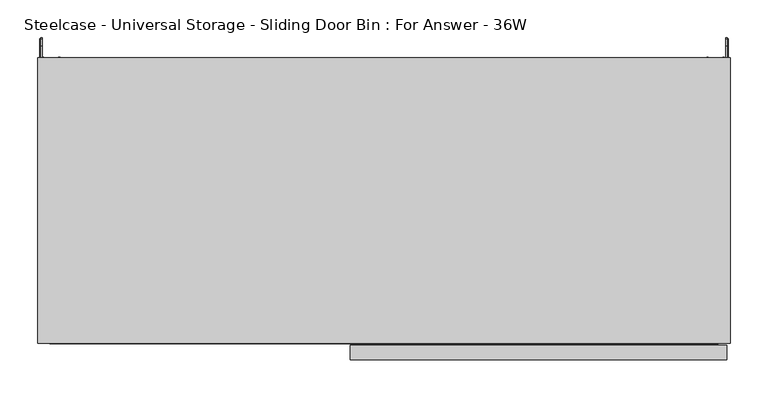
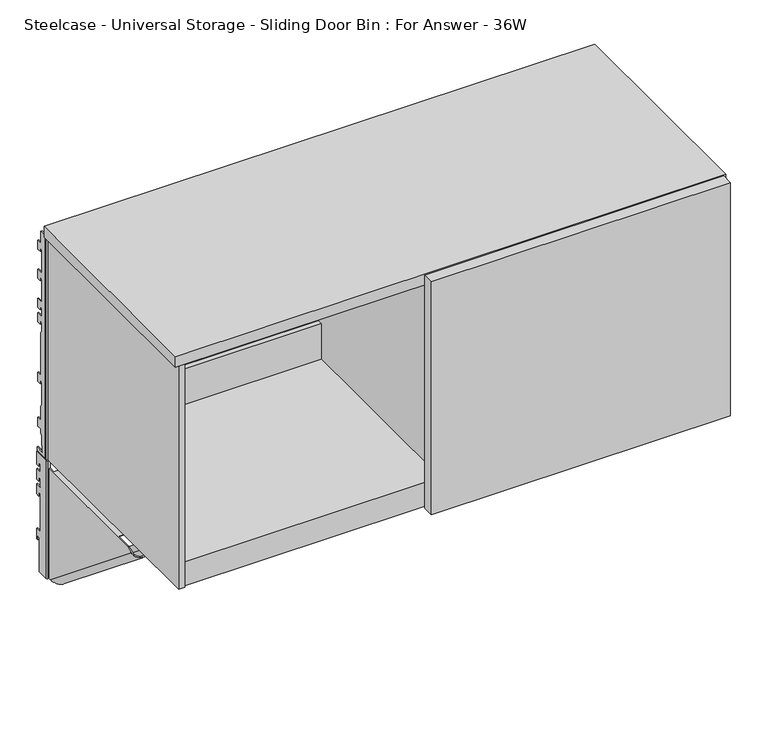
"""IFC4 building model written with IfcOpenShell, lengths in millimetres: furniture geometry, Steelcase - Universal Storage - Sliding Door Bin : For Answer - 36W."""

from ifc_helpers import new_model, si_unit, frame, origin, place, context, project, spatial, polyline, circle_curve, ellipse_curve, outline, extrude, faceted_brep, source, transform, mapped, element, save
from ifc_brep_helpers import plane_surface, cylinder_surface, revolved_surface, advanced_brep


def steelcase_universal_storage_sliding_door_bin_for_answer_36w_f5d52e2c(model_context):
    return source(origin(), model_context, "Body", "SolidModel", [
        advanced_brep(
        [(4.0894, 24.9864881, 1265.2629), (4.0894, 1.1327479, 1265.2629), (4.0894, 1.1203386, 1058.2783), (4.0894, 17.3410881, 1058.2783), (4.0894, 17.3410881, 1118.4254822), (4.0894, 21.4050888, 1118.4254822), (4.0894, 21.4050888, 1112.0755064), (4.0894, 24.9864881, 1112.0755064), (4.0894, 24.9864881, 1130.3381271), (4.0894, 14.7756879, 1130.3381271), (4.0894, 14.7756879, 1196.9115345), (4.0894, 18.8396885, 1196.9115345), (4.0894, 18.8396885, 1190.561486), (4.0894, 24.9864881, 1190.561486), (4.0894, 24.9864881, 1208.8241068), (4.0894, 14.7756879, 1208.8241068), (4.0894, 14.7756879, 1223.0735277), (4.0894, 18.8396885, 1223.0735277), (4.0894, 18.8396885, 1216.7234793), (4.0894, 24.9864881, 1216.7234793), (4.0894, 24.9864881, 1234.9861), (4.0894, 14.7756879, 1234.9861), (4.0894, 14.7756879, 1249.2355209), (4.0894, 18.8396885, 1249.2355209), (4.0894, 18.8396885, 1242.8854725), (4.0894, 24.9864881, 1242.8854725), (2.1844, 24.9864881, 1265.2629), (2.1844, 24.9864881, 1242.8854725), (2.1844, 18.8396885, 1242.8854725), (2.1844, 18.8396885, 1249.2355209), (2.1844, 14.7756879, 1249.2355209), (2.1844, 14.7756879, 1234.9861), (2.1844, 24.9864881, 1234.9861), (2.1844, 24.9864881, 1216.7234793), (2.1844, 18.8396885, 1216.7234793), (2.1844, 18.8396885, 1223.0735277), (2.1844, 14.7756879, 1223.0735277), (2.1844, 14.7756879, 1208.8241068), (2.1844, 24.9864881, 1208.8241068), (2.1844, 24.9864881, 1190.561486), (2.1844, 18.8396885, 1190.561486), (2.1844, 18.8396885, 1196.9115345), (2.1844, 14.7756879, 1196.9115345), (2.1844, 14.7756879, 1130.3381271), (2.1844, 24.9864881, 1130.3381271), (2.1844, 24.9864881, 1112.0755064), (2.1844, 21.4050888, 1112.0755064), (2.1844, 21.4050888, 1118.4254822), (2.1844, 17.3410881, 1118.4254822), (2.1844, 17.3410881, 1058.2783), (2.1844, -0.7757522, 1058.2783), (2.1844, -0.7757522, 1265.2629), (4.4891598, -3.080512, 1265.2629), (8.1026, -3.080512, 1265.2629), (8.1026, -1.7838863, 1265.2629), (7.4942256, -1.175512, 1265.2629), (6.3852506, -1.175512, 1265.2629), (6.3852506, -1.175512, 1058.2783), (7.4942256, -1.175512, 1058.2783), (8.1026, -1.7838863, 1058.2783), (8.1026, -3.080512, 1058.2783), (4.4891598, -3.080512, 1058.2783)],
        [
            (0, 1),
            (1, 2),
            (2, 3),
            (3, 4),
            (4, 5),
            (5, 6),
            (6, 7),
            (7, 8),
            (8, 9),
            (9, 10),
            (10, 11),
            (11, 12),
            (12, 13),
            (13, 14),
            (14, 15),
            (15, 16),
            (16, 17),
            (17, 18),
            (18, 19),
            (19, 20),
            (20, 21),
            (21, 22),
            (22, 23),
            (23, 24),
            (24, 25),
            (25, 0),
            (26, 27),
            (27, 28),
            (28, 29),
            (29, 30),
            (30, 31),
            (31, 32),
            (32, 33),
            (33, 34),
            (34, 35),
            (35, 36),
            (36, 37),
            (37, 38),
            (38, 39),
            (39, 40),
            (40, 41),
            (41, 42),
            (42, 43),
            (43, 44),
            (44, 45),
            (45, 46),
            (46, 47),
            (47, 48),
            (48, 49),
            (49, 50),
            (50, 51),
            (51, 26),
            (0, 26),
            (51, 52, circle_curve(frame((4.4891598, -0.7757522, 1265.2629), z_axis=(0.0, 0.0, 1.0), x_axis=(1.0, 0.0, 0.0)), 2.3047598)),
            (52, 53),
            (53, 54),
            (54, 55, circle_curve(frame((7.4942256, -1.7838863, 1265.2629), z_axis=(0.0, 0.0, 1.0), x_axis=(1.0, 0.0, 0.0)), 0.6083744)),
            (55, 56),
            (56, 1, circle_curve(frame((6.3852506, 1.1203386, 1265.2629), z_axis=(0.0, 0.0, -1.0), x_axis=(1.0, 0.0, 0.0)), 2.2958506)),
            (2, 57, circle_curve(frame((6.3852506, 1.1203386, 1058.2783), z_axis=(0.0, 0.0, 1.0), x_axis=(1.0, 0.0, 0.0)), 2.2958506)),
            (57, 58),
            (58, 59, circle_curve(frame((7.4942256, -1.7838863, 1058.2783), z_axis=(0.0, 0.0, -1.0), x_axis=(1.0, 0.0, 0.0)), 0.6083744)),
            (59, 60),
            (60, 61),
            (61, 50, circle_curve(frame((4.4891598, -0.7757522, 1058.2783), z_axis=(0.0, 0.0, -1.0), x_axis=(1.0, 0.0, 0.0)), 2.3047598)),
            (49, 3),
            (48, 4),
            (47, 5),
            (46, 6),
            (45, 7),
            (44, 8),
            (43, 9),
            (42, 10),
            (41, 11),
            (40, 12),
            (39, 13),
            (38, 14),
            (37, 15),
            (36, 16),
            (35, 17),
            (34, 18),
            (33, 19),
            (32, 20),
            (31, 21),
            (30, 22),
            (29, 23),
            (28, 24),
            (27, 25),
            (61, 52),
            (60, 53),
            (59, 54),
            (58, 55),
            (57, 56),
        ],
        [
            plane_surface(frame((4.0894, 1.241405, 1265.2629), z_axis=(1.0, 0.0, 0.0), x_axis=(0.0, -1.0, 0.0))),
            plane_surface(frame((2.1844, 1.241405, 1265.2629), z_axis=(-1.0, 0.0, 0.0), x_axis=(0.0, 1.0, 0.0))),
            plane_surface(frame((4.0894, 24.9864881, 1265.2629), z_axis=(0.0, 0.0, 1.0), x_axis=(-1.0, 0.0, 0.0))),
            plane_surface(frame((4.0894, 1.1327479, 1058.2783), z_axis=(0.0, 0.0, -1.0), x_axis=(-1.0, 0.0, 0.0))),
            plane_surface(frame((4.0894, 17.3410881, 1058.2783), z_axis=(0.0, 1.0, 0.0), x_axis=(-1.0, 0.0, 0.0))),
            plane_surface(frame((4.0894, 17.3410881, 1118.4254822), z_axis=(0.0, 0.0, -1.0), x_axis=(-1.0, 0.0, 0.0))),
            plane_surface(frame((4.0894, 21.4050888, 1118.4254822), z_axis=(0.0, -1.0, 0.0), x_axis=(-1.0, 0.0, 0.0))),
            plane_surface(frame((4.0894, 21.4050888, 1112.0755064), z_axis=(0.0, 0.0, -1.0), x_axis=(-1.0, 0.0, 0.0))),
            plane_surface(frame((4.0894, 24.9864881, 1112.0755064), z_axis=(0.0, 1.0, 0.0), x_axis=(-1.0, 0.0, 0.0))),
            plane_surface(frame((4.0894, 24.9864881, 1130.3381271), z_axis=(0.0, 0.0, 1.0), x_axis=(-1.0, 0.0, 0.0))),
            plane_surface(frame((4.0894, 14.7756879, 1130.3381271), z_axis=(0.0, 1.0, 0.0), x_axis=(-1.0, 0.0, 0.0))),
            plane_surface(frame((4.0894, 14.7756879, 1196.9115345), z_axis=(0.0, 0.0, -1.0), x_axis=(-1.0, 0.0, 0.0))),
            plane_surface(frame((4.0894, 18.8396885, 1196.9115345), z_axis=(0.0, -1.0, 0.0), x_axis=(-1.0, 0.0, 0.0))),
            plane_surface(frame((4.0894, 18.8396885, 1190.561486), z_axis=(0.0, 0.0, -1.0), x_axis=(-1.0, 0.0, 0.0))),
            plane_surface(frame((4.0894, 24.9864881, 1190.561486), z_axis=(0.0, 1.0, 0.0), x_axis=(-1.0, 0.0, 0.0))),
            plane_surface(frame((4.0894, 24.9864881, 1208.8241068), z_axis=(0.0, 0.0, 1.0), x_axis=(-1.0, 0.0, 0.0))),
            plane_surface(frame((4.0894, 14.7756879, 1208.8241068), z_axis=(0.0, 1.0, 0.0), x_axis=(-1.0, 0.0, 0.0))),
            plane_surface(frame((4.0894, 14.7756879, 1223.0735277), z_axis=(0.0, 0.0, -1.0), x_axis=(-1.0, 0.0, 0.0))),
            plane_surface(frame((4.0894, 18.8396885, 1223.0735277), z_axis=(0.0, -1.0, 0.0), x_axis=(-1.0, 0.0, 0.0))),
            plane_surface(frame((4.0894, 18.8396885, 1216.7234793), z_axis=(0.0, 0.0, -1.0), x_axis=(-1.0, 0.0, 0.0))),
            plane_surface(frame((4.0894, 24.9864881, 1216.7234793), z_axis=(0.0, 1.0, 0.0), x_axis=(-1.0, 0.0, 0.0))),
            plane_surface(frame((4.0894, 24.9864881, 1234.9861), z_axis=(0.0, 0.0, 1.0), x_axis=(-1.0, 0.0, 0.0))),
            plane_surface(frame((4.0894, 14.7756879, 1234.9861), z_axis=(0.0, 1.0, 0.0), x_axis=(-1.0, 0.0, 0.0))),
            plane_surface(frame((4.0894, 14.7756879, 1249.2355209), z_axis=(0.0, 0.0, -1.0), x_axis=(-1.0, 0.0, 0.0))),
            plane_surface(frame((4.0894, 18.8396885, 1249.2355209), z_axis=(0.0, -1.0, 0.0), x_axis=(-1.0, 0.0, 0.0))),
            plane_surface(frame((4.0894, 18.8396885, 1242.8854725), z_axis=(0.0, 0.0, -1.0), x_axis=(-1.0, 0.0, 0.0))),
            plane_surface(frame((4.0894, 24.9864881, 1242.8854725), z_axis=(0.0, 1.0, 0.0), x_axis=(-1.0, 0.0, 0.0))),
            cylinder_surface(frame((4.4891598, -0.7757522, 1058.2783), z_axis=(0.0, 0.0, 1.0), x_axis=(1.0, 0.0, 0.0)), 2.3047598),
            plane_surface(frame((4.4891598, -3.080512, 1265.2629), z_axis=(0.0, -1.0, 0.0), x_axis=(0.0, 0.0, -1.0))),
            plane_surface(frame((8.1026, -3.080512, 1265.2629), z_axis=(1.0, 0.0, 0.0), x_axis=(0.0, 0.0, -1.0))),
            cylinder_surface(frame((7.4942256, -1.7838863, 1058.2783), z_axis=(0.0, 0.0, 1.0), x_axis=(1.0, 0.0, 0.0)), 0.6083744),
            plane_surface(frame((7.4942256, -1.175512, 1265.2629), z_axis=(0.0, 1.0, 0.0), x_axis=(0.0, 0.0, -1.0))),
            revolved_surface(polyline([(8.6811012, 1.1203386, 1058.2783), (8.6811012, 1.1203386, 1265.2629)]), (6.3852506, 1.1203386, 1058.2783), (0.0, 0.0, -1.0)),
        ],
        [
            (0, [[1, 2, 3, 4, 5, 6, 7, 8, 9, 10, 11, 12, 13, 14, 15, 16, 17, 18, 19, 20, 21, 22, 23, 24, 25, 26]]),
            (1, [[27, 28, 29, 30, 31, 32, 33, 34, 35, 36, 37, 38, 39, 40, 41, 42, 43, 44, 45, 46, 47, 48, 49, 50, 51, 52]]),
            (2, [[-1, 53, -52, 54, 55, 56, 57, 58, 59]]),
            (3, [[-3, 60, 61, 62, 63, 64, 65, -50, 66]]),
            (4, [[-4, -66, -49, 67]]),
            (5, [[-5, -67, -48, 68]]),
            (6, [[-6, -68, -47, 69]]),
            (7, [[-7, -69, -46, 70]]),
            (8, [[-8, -70, -45, 71]]),
            (9, [[-9, -71, -44, 72]]),
            (10, [[-10, -72, -43, 73]]),
            (11, [[-11, -73, -42, 74]]),
            (12, [[-12, -74, -41, 75]]),
            (13, [[-13, -75, -40, 76]]),
            (14, [[-14, -76, -39, 77]]),
            (15, [[-15, -77, -38, 78]]),
            (16, [[-16, -78, -37, 79]]),
            (17, [[-17, -79, -36, 80]]),
            (18, [[-18, -80, -35, 81]]),
            (19, [[-19, -81, -34, 82]]),
            (20, [[-20, -82, -33, 83]]),
            (21, [[-21, -83, -32, 84]]),
            (22, [[-22, -84, -31, 85]]),
            (23, [[-23, -85, -30, 86]]),
            (24, [[-24, -86, -29, 87]]),
            (25, [[-25, -87, -28, 88]]),
            (26, [[-26, -88, -27, -53]]),
            (27, [[-54, -51, -65, 89]]),
            (28, [[-55, -89, -64, 90]]),
            (29, [[-56, -90, -63, 91]]),
            (30, [[-57, -91, -62, 92]]),
            (31, [[-58, -92, -61, 93]]),
            (32, [[-59, -93, -60, -2]]),
        ],
    ),
        advanced_brep(
        [(910.3106, 24.9864881, 1265.2629), (910.3106, 24.9864881, 1242.8854725), (910.3106, 18.8396885, 1242.8854725), (910.3106, 18.8396885, 1249.2355209), (910.3106, 14.7756879, 1249.2355209), (910.3106, 14.7756879, 1234.9861), (910.3106, 24.9864881, 1234.9861), (910.3106, 24.9864881, 1216.7234793), (910.3106, 18.8396885, 1216.7234793), (910.3106, 18.8396885, 1223.0735277), (910.3106, 14.7756879, 1223.0735277), (910.3106, 14.7756879, 1208.8241068), (910.3106, 24.9864881, 1208.8241068), (910.3106, 24.9864881, 1190.561486), (910.3106, 18.8396885, 1190.561486), (910.3106, 18.8396885, 1196.9115345), (910.3106, 14.7756879, 1196.9115345), (910.3106, 14.7756879, 1130.3381271), (910.3106, 24.9864881, 1130.3381271), (910.3106, 24.9864881, 1112.0755064), (910.3106, 21.4050888, 1112.0755064), (910.3106, 21.4050888, 1118.4254822), (910.3106, 17.3410881, 1118.4254822), (910.3106, 17.3410881, 1058.2783), (910.3106, 1.1327479, 1058.2783), (910.3106, 1.1203386, 1265.2629), (912.2156, -0.7757522, 1265.2629), (912.2156, -0.7757522, 1058.2783), (912.2156, 17.3410881, 1058.2783), (912.2156, 17.3410881, 1118.4254822), (912.2156, 21.4050888, 1118.4254822), (912.2156, 21.4050888, 1112.0755064), (912.2156, 24.9864881, 1112.0755064), (912.2156, 24.9864881, 1130.3381271), (912.2156, 14.7756879, 1130.3381271), (912.2156, 14.7756879, 1196.9115345), (912.2156, 18.8396885, 1196.9115345), (912.2156, 18.8396885, 1190.561486), (912.2156, 24.9864881, 1190.561486), (912.2156, 24.9864881, 1208.8241068), (912.2156, 14.7756879, 1208.8241068), (912.2156, 14.7756879, 1223.0735277), (912.2156, 18.8396885, 1223.0735277), (912.2156, 18.8396885, 1216.7234793), (912.2156, 24.9864881, 1216.7234793), (912.2156, 24.9864881, 1234.9861), (912.2156, 14.7756879, 1234.9861), (912.2156, 14.7756879, 1249.2355209), (912.2156, 18.8396885, 1249.2355209), (912.2156, 18.8396885, 1242.8854725), (912.2156, 24.9864881, 1242.8854725), (912.2156, 24.9864881, 1265.2629), (909.9108402, -3.080512, 1058.2783), (906.5006, -3.080512, 1058.2783), (906.5006, -1.7838863, 1058.2783), (907.1089744, -1.175512, 1058.2783), (908.0147494, -1.175512, 1058.2783), (908.0147494, -1.175512, 1265.2629), (907.1089744, -1.175512, 1265.2629), (906.5006, -1.7838863, 1265.2629), (906.5006, -3.080512, 1265.2629), (909.9108402, -3.080512, 1265.2629)],
        [
            (0, 1),
            (1, 2),
            (2, 3),
            (3, 4),
            (4, 5),
            (5, 6),
            (6, 7),
            (7, 8),
            (8, 9),
            (9, 10),
            (10, 11),
            (11, 12),
            (12, 13),
            (13, 14),
            (14, 15),
            (15, 16),
            (16, 17),
            (17, 18),
            (18, 19),
            (19, 20),
            (20, 21),
            (21, 22),
            (22, 23),
            (23, 24),
            (24, 25),
            (25, 0),
            (26, 27),
            (27, 28),
            (28, 29),
            (29, 30),
            (30, 31),
            (31, 32),
            (32, 33),
            (33, 34),
            (34, 35),
            (35, 36),
            (36, 37),
            (37, 38),
            (38, 39),
            (39, 40),
            (40, 41),
            (41, 42),
            (42, 43),
            (43, 44),
            (44, 45),
            (45, 46),
            (46, 47),
            (47, 48),
            (48, 49),
            (49, 50),
            (50, 51),
            (51, 26),
            (0, 51),
            (50, 1),
            (49, 2),
            (48, 3),
            (47, 4),
            (46, 5),
            (45, 6),
            (44, 7),
            (43, 8),
            (42, 9),
            (41, 10),
            (40, 11),
            (39, 12),
            (38, 13),
            (37, 14),
            (36, 15),
            (35, 16),
            (34, 17),
            (33, 18),
            (32, 19),
            (31, 20),
            (30, 21),
            (29, 22),
            (28, 23),
            (27, 52, circle_curve(frame((909.9108402, -0.7757522, 1058.2783), z_axis=(0.0, 0.0, -1.0), x_axis=(0.0, 1.0, 0.0)), 2.3047598)),
            (52, 53),
            (53, 54),
            (54, 55, circle_curve(frame((907.1089744, -1.7838863, 1058.2783), z_axis=(0.0, 0.0, -1.0), x_axis=(0.0, 1.0, 0.0)), 0.6083744)),
            (55, 56),
            (56, 24, circle_curve(frame((908.0147494, 1.1203386, 1058.2783), z_axis=(0.0, 0.0, 1.0), x_axis=(0.0, 1.0, 0.0)), 2.2958506)),
            (25, 57, circle_curve(frame((908.0147494, 1.1203386, 1265.2629), z_axis=(0.0, 0.0, -1.0), x_axis=(0.0, 1.0, 0.0)), 2.2958506)),
            (57, 58),
            (58, 59, circle_curve(frame((907.1089744, -1.7838863, 1265.2629), z_axis=(0.0, 0.0, 1.0), x_axis=(0.0, 1.0, 0.0)), 0.6083744)),
            (59, 60),
            (60, 61),
            (61, 26, circle_curve(frame((909.9108402, -0.7757522, 1265.2629), z_axis=(0.0, 0.0, 1.0), x_axis=(0.0, 1.0, 0.0)), 2.3047598)),
            (56, 57),
            (55, 58),
            (54, 59),
            (53, 60),
            (52, 61),
        ],
        [
            plane_surface(frame((910.3106, 24.9864881, 1265.2629), z_axis=(-1.0, 0.0, 0.0), x_axis=(0.0, 0.0, -1.0))),
            plane_surface(frame((912.2156, 24.9864881, 1265.2629), z_axis=(1.0, 0.0, 0.0), x_axis=(0.0, 0.0, 1.0))),
            plane_surface(frame((910.3106, 24.9864881, 1265.2629), z_axis=(0.0, 1.0, 0.0), x_axis=(1.0, 0.0, 0.0))),
            plane_surface(frame((910.3106, 24.9864881, 1242.8854725), z_axis=(0.0, 0.0, -1.0), x_axis=(1.0, 0.0, 0.0))),
            plane_surface(frame((910.3106, 18.8396885, 1242.8854725), z_axis=(0.0, -1.0, 0.0), x_axis=(1.0, 0.0, 0.0))),
            plane_surface(frame((910.3106, 18.8396885, 1249.2355209), z_axis=(0.0, 0.0, -1.0), x_axis=(1.0, 0.0, 0.0))),
            plane_surface(frame((910.3106, 14.7756879, 1249.2355209), z_axis=(0.0, 1.0, 0.0), x_axis=(1.0, 0.0, 0.0))),
            plane_surface(frame((910.3106, 14.7756879, 1234.9861), z_axis=(0.0, 0.0, 1.0), x_axis=(1.0, 0.0, 0.0))),
            plane_surface(frame((910.3106, 24.9864881, 1234.9861), z_axis=(0.0, 1.0, 0.0), x_axis=(1.0, 0.0, 0.0))),
            plane_surface(frame((910.3106, 24.9864881, 1216.7234793), z_axis=(0.0, 0.0, -1.0), x_axis=(1.0, 0.0, 0.0))),
            plane_surface(frame((910.3106, 18.8396885, 1216.7234793), z_axis=(0.0, -1.0, 0.0), x_axis=(1.0, 0.0, 0.0))),
            plane_surface(frame((910.3106, 18.8396885, 1223.0735277), z_axis=(0.0, 0.0, -1.0), x_axis=(1.0, 0.0, 0.0))),
            plane_surface(frame((910.3106, 14.7756879, 1223.0735277), z_axis=(0.0, 1.0, 0.0), x_axis=(1.0, 0.0, 0.0))),
            plane_surface(frame((910.3106, 14.7756879, 1208.8241068), z_axis=(0.0, 0.0, 1.0), x_axis=(1.0, 0.0, 0.0))),
            plane_surface(frame((910.3106, 24.9864881, 1208.8241068), z_axis=(0.0, 1.0, 0.0), x_axis=(1.0, 0.0, 0.0))),
            plane_surface(frame((910.3106, 24.9864881, 1190.561486), z_axis=(0.0, 0.0, -1.0), x_axis=(1.0, 0.0, 0.0))),
            plane_surface(frame((910.3106, 18.8396885, 1190.561486), z_axis=(0.0, -1.0, 0.0), x_axis=(1.0, 0.0, 0.0))),
            plane_surface(frame((910.3106, 18.8396885, 1196.9115345), z_axis=(0.0, 0.0, -1.0), x_axis=(1.0, 0.0, 0.0))),
            plane_surface(frame((910.3106, 14.7756879, 1196.9115345), z_axis=(0.0, 1.0, 0.0), x_axis=(1.0, 0.0, 0.0))),
            plane_surface(frame((910.3106, 14.7756879, 1130.3381271), z_axis=(0.0, 0.0, 1.0), x_axis=(1.0, 0.0, 0.0))),
            plane_surface(frame((910.3106, 24.9864881, 1130.3381271), z_axis=(0.0, 1.0, 0.0), x_axis=(1.0, 0.0, 0.0))),
            plane_surface(frame((910.3106, 24.9864881, 1112.0755064), z_axis=(0.0, 0.0, -1.0), x_axis=(1.0, 0.0, 0.0))),
            plane_surface(frame((910.3106, 21.4050888, 1112.0755064), z_axis=(0.0, -1.0, 0.0), x_axis=(1.0, 0.0, 0.0))),
            plane_surface(frame((910.3106, 21.4050888, 1118.4254822), z_axis=(0.0, 0.0, -1.0), x_axis=(1.0, 0.0, 0.0))),
            plane_surface(frame((910.3106, 17.3410881, 1118.4254822), z_axis=(0.0, 1.0, 0.0), x_axis=(1.0, 0.0, 0.0))),
            plane_surface(frame((910.3106, 17.3410881, 1058.2783), z_axis=(0.0, 0.0, -1.0), x_axis=(1.0, 0.0, 0.0))),
            plane_surface(frame((910.3106, 1.1327479, 1265.2629), z_axis=(0.0, 0.0, 1.0), x_axis=(1.0, 0.0, 0.0))),
            revolved_surface(polyline([(908.0147494, 3.4161892, 1058.2783), (908.0147494, 3.4161892, 1265.2629)]), (908.0147494, 1.1203386, 1058.2783), (0.0, 0.0, -1.0)),
            plane_surface(frame((908.0147494, -1.175512, 1265.2629), z_axis=(3.842968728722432e-11, 1.0, 0.0), x_axis=(0.0, 0.0, -1.0))),
            cylinder_surface(frame((907.1089744, -1.7838863, 1058.2783), z_axis=(0.0, 0.0, 1.0), x_axis=(0.0, 1.0, 0.0)), 0.6083744),
            plane_surface(frame((906.5006, -1.7838863, 1265.2629), z_axis=(-1.0, 0.0, 0.0), x_axis=(0.0, 0.0, -1.0))),
            plane_surface(frame((906.5006, -3.080512, 1265.2629), z_axis=(7.375377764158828e-12, -1.0, 0.0), x_axis=(0.0, 0.0, -1.0))),
            cylinder_surface(frame((909.9108402, -0.7757522, 1058.2783), z_axis=(0.0, 0.0, 1.0), x_axis=(0.0, 1.0, 0.0)), 2.3047598),
        ],
        [
            (0, [[1, 2, 3, 4, 5, 6, 7, 8, 9, 10, 11, 12, 13, 14, 15, 16, 17, 18, 19, 20, 21, 22, 23, 24, 25, 26]]),
            (1, [[27, 28, 29, 30, 31, 32, 33, 34, 35, 36, 37, 38, 39, 40, 41, 42, 43, 44, 45, 46, 47, 48, 49, 50, 51, 52]]),
            (2, [[-1, 53, -51, 54]]),
            (3, [[-2, -54, -50, 55]]),
            (4, [[-3, -55, -49, 56]]),
            (5, [[-4, -56, -48, 57]]),
            (6, [[-5, -57, -47, 58]]),
            (7, [[-6, -58, -46, 59]]),
            (8, [[-7, -59, -45, 60]]),
            (9, [[-8, -60, -44, 61]]),
            (10, [[-9, -61, -43, 62]]),
            (11, [[-10, -62, -42, 63]]),
            (12, [[-11, -63, -41, 64]]),
            (13, [[-12, -64, -40, 65]]),
            (14, [[-13, -65, -39, 66]]),
            (15, [[-14, -66, -38, 67]]),
            (16, [[-15, -67, -37, 68]]),
            (17, [[-16, -68, -36, 69]]),
            (18, [[-17, -69, -35, 70]]),
            (19, [[-18, -70, -34, 71]]),
            (20, [[-19, -71, -33, 72]]),
            (21, [[-20, -72, -32, 73]]),
            (22, [[-21, -73, -31, 74]]),
            (23, [[-22, -74, -30, 75]]),
            (24, [[-23, -75, -29, 76]]),
            (25, [[-24, -76, -28, 77, 78, 79, 80, 81, 82]]),
            (26, [[-26, 83, 84, 85, 86, 87, 88, -52, -53]]),
            (27, [[-83, -25, -82, 89]]),
            (28, [[-84, -89, -81, 90]]),
            (29, [[-85, -90, -80, 91]]),
            (30, [[-86, -91, -79, 92]]),
            (31, [[-87, -92, -78, 93]]),
            (32, [[-88, -93, -77, -27]]),
        ],
    ),
        advanced_brep(
        [(885.3424, -230.0833372, 1251.1405), (885.3424, 1.1327479, 1063.9053738), (883.2342, 1.1327479, 1063.9053738), (883.2342, -230.0833372, 1251.1405), (883.2342, 1.1327479, 1058.2783), (883.2342, -7.7654502, 1058.2783), (883.2342, -240.6555763, 1246.8690381), (906.5006, -7.7654502, 1058.2783), (906.5006, -240.6555763, 1246.8690381), (906.5006, 1.1327479, 1058.2783), (906.5006, 1.1327479, 1063.9053738), (906.5006, -3.080512, 1067.317205), (906.5006, -3.080512, 1251.1405), (906.5006, -230.0833372, 1251.1405), (904.3924009, 1.1327479, 1063.9053738), (904.3924009, -3.080512, 1067.317205), (904.3924009, -7.7654502, 1058.2783), (904.3924009, -240.6555763, 1246.8690381), (904.3924009, -230.0833372, 1251.1405), (904.3924009, -200.311512, 1251.1405), (904.3924009, -200.311512, 1250.3023163), (904.3924009, -14.0787123, 1250.3023163), (904.3924009, -14.0787123, 1251.1405), (904.3924009, -3.080512, 1251.1405), (904.3924009, 1.1327479, 1058.2783), (885.3424, -7.7654502, 1058.2783), (885.3424, -240.6555763, 1246.8690381), (885.3424, 1.1327479, 1058.2783), (875.4617978, -200.311512, 1251.1405), (875.4617978, -200.311512, 1269.5555016), (874.6236, -200.311512, 1269.5555016), (874.6236, -200.311512, 1250.3023163), (874.6236, -82.5825138, 1269.5555016), (875.4617978, -82.5825138, 1269.5555016), (875.4617978, -82.5825138, 1251.1405), (874.6236, -82.5825138, 1251.1405), (874.6236, -14.0787123, 1251.1405), (874.6236, -14.0787123, 1250.3023163)],
        [
            (0, 1),
            (1, 2),
            (2, 3),
            (3, 0),
            (2, 4),
            (4, 5),
            (5, 6),
            (6, 3),
            (5, 7, ellipse_curve(frame((894.8674, -7.7654502, 1058.2783), z_axis=(0.0, 0.0, 1.0), x_axis=(0.0, -1.0, 0.0)), 18.4853359, 11.6332)),
            (7, 8),
            (8, 6, ellipse_curve(frame((894.8674, -240.6555763, 1246.8690381), z_axis=(0.0, 0.374606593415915, -0.9271838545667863), x_axis=(0.0, -0.9271838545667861, -0.3746065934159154)), 13.3008659, 11.6332)),
            (7, 9),
            (9, 10),
            (10, 11),
            (11, 12),
            (12, 13),
            (13, 8),
            (10, 14),
            (14, 15),
            (15, 11),
            (16, 17),
            (17, 18),
            (18, 19),
            (19, 20),
            (20, 21),
            (21, 22),
            (22, 23),
            (23, 15),
            (14, 24),
            (24, 16),
            (16, 25, ellipse_curve(frame((894.8674005, -7.7654502, 1058.2783), z_axis=(0.0, 0.0, -1.0), x_axis=(0.0, 1.0, 0.0)), 15.135374, 9.5250005)),
            (25, 26),
            (26, 17, ellipse_curve(frame((894.8674005, -240.6555763, 1246.8690381), z_axis=(0.0, -0.374606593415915, 0.9271838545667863), x_axis=(0.0, 0.9271838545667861, 0.3746065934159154)), 10.8904475, 9.5250005)),
            (0, 26),
            (25, 27),
            (27, 1),
            (13, 18),
            (24, 9),
            (4, 27),
            (28, 29),
            (29, 30),
            (30, 31),
            (31, 20),
            (19, 28),
            (32, 33),
            (33, 34),
            (34, 35),
            (35, 32),
            (35, 36),
            (36, 37),
            (37, 31),
            (30, 32),
            (28, 34),
            (33, 29),
            (36, 22),
            (21, 37),
            (12, 23),
        ],
        [
            plane_surface(frame((885.3424, -241.2702093, 1260.199452), z_axis=(0.0, 0.6293204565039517, 0.7771459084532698), x_axis=(0.0, 0.7771459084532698, -0.6293204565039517))),
            plane_surface(frame((883.2342, -241.2702093, 1260.199452), z_axis=(-1.0000000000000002, 0.0, 0.0), x_axis=(0.0, 0.7771459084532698, -0.6293204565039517))),
            cylinder_surface(frame((894.8674, 5.728998, 1047.3507094), z_axis=(0.0, -0.7771459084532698, 0.6293204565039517), x_axis=(0.0, 0.6293204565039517, 0.7771459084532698)), 11.6332),
            plane_surface(frame((906.5006, -247.5463438, 1252.4490726), z_axis=(1.0000000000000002, 0.0, 0.0), x_axis=(0.0, 0.7771459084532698, -0.6293204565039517))),
            plane_surface(frame((906.5006, -241.2702093, 1260.199452), z_axis=(0.0, 0.6293204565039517, 0.7771459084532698), x_axis=(0.0, 0.7771459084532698, -0.6293204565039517))),
            plane_surface(frame((904.3924009, -241.2702093, 1260.199452), z_axis=(-1.0000000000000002, 0.0, 0.0), x_axis=(0.0, 0.7771459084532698, -0.6293204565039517))),
            revolved_surface(polyline([(894.8674005, 7.3699238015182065, 1058.2783000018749), (894.8674005, -238.76446812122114, 1257.5940349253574)]), (894.8674005, 5.728998, 1047.3507094), (0.0, 0.7771459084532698, -0.6293204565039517)),
            plane_surface(frame((885.3424, -247.5463438, 1252.4490726), z_axis=(1.0000000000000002, 0.0, 0.0), x_axis=(0.0, 0.7771459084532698, -0.6293204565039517))),
            plane_surface(frame((914.4, -257.2236519, 1240.1751011), z_axis=(0.0, -0.374606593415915, 0.9271838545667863), x_axis=(-1.0, 0.0, 0.0))),
            plane_surface(frame((914.4, 1.1327479, 1058.2783), z_axis=(0.0, 0.0, -1.0), x_axis=(-1.0, 0.0, 0.0))),
            plane_surface(frame((914.4, 1.1327479, 1070.9783), z_axis=(0.0, 1.0, 0.0), x_axis=(-1.0, 0.0, 0.0))),
            plane_surface(frame((874.6236, -200.311512, 1269.5555016), z_axis=(0.0, -1.0, 0.0), x_axis=(0.0, 0.0, -1.0))),
            plane_surface(frame((874.6236, -82.5825138, 1269.5555016), z_axis=(0.0, 1.0, 0.0), x_axis=(0.0, 0.0, 1.0))),
            plane_surface(frame((874.6236, -200.311512, 1269.5555016), z_axis=(-1.0, 0.0, 0.0), x_axis=(0.0, 1.0, 0.0))),
            plane_surface(frame((875.4617978, -200.311512, 1251.1405), z_axis=(1.0, 0.0, 0.0), x_axis=(0.0, 1.0, 0.0))),
            plane_surface(frame((875.4617978, -200.311512, 1269.5555016), z_axis=(0.0, 0.0, 1.0), x_axis=(0.0, 1.0, 0.0))),
            plane_surface(frame((874.6236, -14.0787123, 1251.1405), z_axis=(0.0, 1.0, 0.0), x_axis=(0.0, 0.0, 1.0))),
            plane_surface(frame((874.6236, -200.311512, 1250.3023163), z_axis=(0.0, 0.0, -1.0), x_axis=(0.0, 1.0, 0.0))),
            plane_surface(frame((906.5006, -200.311512, 1251.1405), z_axis=(0.0, 0.0, 1.0), x_axis=(0.0, 1.0, 0.0))),
            plane_surface(frame((906.5006, -3.080512, 1067.317205), z_axis=(0.0, 1.0, 0.0), x_axis=(-1.0, 0.0, 0.0))),
        ],
        [
            (0, [[1, 2, 3, 4]]),
            (1, [[-3, 5, 6, 7, 8]]),
            (2, [[-7, 9, 10, 11]]),
            (3, [[-10, 12, 13, 14, 15, 16, 17]]),
            (4, [[18, 19, 20, -14]]),
            (5, [[21, 22, 23, 24, 25, 26, 27, 28, -19, 29, 30]]),
            (6, [[-21, 31, 32, 33]]),
            (7, [[-1, 34, -32, 35, 36]]),
            (8, [[-4, -8, -11, -17, 37, -22, -33, -34]]),
            (9, [[38, -12, -9, -6, 39, -35, -31, -30]]),
            (10, [[-38, -29, -18, -13]]),
            (10, [[-39, -5, -2, -36]]),
            (11, [[40, 41, 42, 43, -24, 44]]),
            (12, [[45, 46, 47, 48]]),
            (13, [[-48, 49, 50, 51, -42, 52]]),
            (14, [[-40, 53, -46, 54]]),
            (15, [[-41, -54, -45, -52]]),
            (16, [[-50, 55, -26, 56]]),
            (17, [[-51, -56, -25, -43]]),
            (18, [[57, -27, -55, -49, -47, -53, -44, -23, -37, -16]]),
            (19, [[-15, -20, -28, -57]]),
        ],
    ),
        advanced_brep(
        [(8.1026, -3.080512, 1067.317205), (8.1026, -3.080512, 1251.1405), (8.1026, -14.0787123, 1251.1405), (8.1026, -14.0787123, 1250.3023163), (8.1026, -200.311512, 1250.3023163), (8.1026, -200.311512, 1251.1405), (8.1026, -230.0833372, 1251.1405), (8.1026, -240.6555763, 1246.8690381), (8.1026, -7.7654502, 1058.2783), (8.1026, 1.1327479, 1058.2783), (8.1026, 1.1327479, 1063.9053738), (5.9944, -3.080512, 1251.1405), (5.9944, -3.080512, 1067.317205), (5.9944, 1.1327479, 1063.9053738), (5.9944, 1.1327479, 1058.2783), (5.9944, -7.7654502, 1058.2783), (5.9944, -240.6555763, 1246.8690381), (5.9944, -230.0833372, 1251.1405), (39.5732022, -200.311512, 1251.1405), (39.5732022, -82.5825138, 1251.1405), (40.4114, -82.5825138, 1251.1405), (40.4114, -14.0787123, 1251.1405), (29.2608, -7.7654502, 1058.2783), (29.2608, -240.6555763, 1246.8690381), (29.2608, 1.1327479, 1058.2783), (29.2608, 1.1327479, 1063.9053738), (29.2608, -230.0833372, 1251.1405), (27.1526009, 1.1327479, 1063.9053738), (27.1526009, -230.0833372, 1251.1405), (27.1526009, 1.1327479, 1058.2783), (27.1526009, -7.7654502, 1058.2783), (27.1526009, -240.6555763, 1246.8690381), (40.4114, -200.311512, 1250.3023163), (40.4114, -200.311512, 1269.5555016), (39.5732022, -200.311512, 1269.5555016), (40.4114, -14.0787123, 1250.3023163), (40.4114, -82.5825138, 1269.5555016), (39.5732022, -82.5825138, 1269.5555016)],
        [
            (0, 1),
            (1, 2),
            (2, 3),
            (3, 4),
            (4, 5),
            (5, 6),
            (6, 7),
            (7, 8),
            (8, 9),
            (9, 10),
            (10, 0),
            (11, 12),
            (12, 13),
            (13, 14),
            (14, 15),
            (15, 16),
            (16, 17),
            (17, 11),
            (17, 6),
            (5, 18),
            (18, 19),
            (19, 20),
            (20, 21),
            (21, 2),
            (1, 11),
            (0, 12),
            (10, 13),
            (15, 22, ellipse_curve(frame((17.6276, -7.7654502, 1058.2783), z_axis=(0.0, 0.0, 1.0), x_axis=(0.0, -1.0, 0.0)), 18.4853359, 11.6332)),
            (22, 23),
            (23, 16, ellipse_curve(frame((17.6276, -240.6555763, 1246.8690381), z_axis=(0.0, 0.374606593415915, -0.9271838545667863), x_axis=(0.0, -0.9271838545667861, -0.3746065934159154)), 13.3008659, 11.6332)),
            (22, 24),
            (24, 25),
            (25, 26),
            (26, 23),
            (25, 27),
            (27, 28),
            (28, 26),
            (27, 29),
            (29, 30),
            (30, 31),
            (31, 28),
            (7, 31, ellipse_curve(frame((17.6276005, -240.6555763, 1246.8690381), z_axis=(0.0, -0.374606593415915, 0.9271838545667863), x_axis=(0.0, 0.9271838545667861, 0.3746065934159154)), 10.8904475, 9.5250005)),
            (30, 8, ellipse_curve(frame((17.6276005, -7.7654502, 1058.2783), z_axis=(0.0, 0.0, -1.0), x_axis=(0.0, 1.0, 0.0)), 15.135374, 9.5250005)),
            (14, 9),
            (29, 24),
            (4, 32),
            (32, 33),
            (33, 34),
            (34, 18),
            (21, 35),
            (35, 3),
            (35, 32),
            (20, 36),
            (36, 33),
            (19, 37),
            (37, 36),
            (37, 34),
        ],
        [
            plane_surface(frame((8.1026, -230.0833372, 1251.1405), z_axis=(1.0, 0.0, 0.0), x_axis=(0.0, -1.0, 0.0))),
            plane_surface(frame((5.9944, -230.0833372, 1251.1405), z_axis=(-1.0, 0.0, 0.0), x_axis=(0.0, 1.0, 0.0))),
            plane_surface(frame((8.1026, -3.080512, 1251.1405), z_axis=(0.0, 0.0, 1.0), x_axis=(-1.0, 0.0, 0.0))),
            plane_surface(frame((8.1026, -3.080512, 1067.317205), z_axis=(0.0, 1.0, 0.0), x_axis=(-1.0, 0.0, 0.0))),
            plane_surface(frame((8.1026, -241.2702093, 1260.199452), z_axis=(0.0, 0.6293204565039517, 0.7771459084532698), x_axis=(0.0, 0.7771459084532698, -0.6293204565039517))),
            cylinder_surface(frame((17.6276, 5.728998, 1047.3507094), z_axis=(0.0, -0.7771459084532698, 0.6293204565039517), x_axis=(1.0, 0.0, 0.0)), 11.6332),
            plane_surface(frame((29.2608, -247.5463438, 1252.4490726), z_axis=(1.0000000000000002, 0.0, 0.0), x_axis=(0.0, 0.7771459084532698, -0.6293204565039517))),
            plane_surface(frame((29.2608, -241.2702093, 1260.199452), z_axis=(0.0, 0.6293204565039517, 0.7771459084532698), x_axis=(0.0, 0.7771459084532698, -0.6293204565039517))),
            plane_surface(frame((27.1526009, -241.2702093, 1260.199452), z_axis=(-1.0000000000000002, 0.0, 0.0), x_axis=(0.0, 0.7771459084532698, -0.6293204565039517))),
            revolved_surface(polyline([(27.152601, 1.375646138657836, 1050.8759848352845), (27.152601, -244.75874578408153, 1250.1917197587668)]), (17.6276005, 5.728998, 1047.3507094), (0.0, 0.7771459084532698, -0.6293204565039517)),
            plane_surface(frame((914.4, -257.2236519, 1240.1751011), z_axis=(0.0, -0.374606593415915, 0.9271838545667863), x_axis=(-1.0, 0.0, 0.0))),
            plane_surface(frame((914.4, 1.1327479, 1058.2783), z_axis=(0.0, 0.0, -1.0), x_axis=(-1.0, 0.0, 0.0))),
            plane_surface(frame((914.4, 1.1327479, 1070.9783), z_axis=(0.0, 1.0, 0.0), x_axis=(-1.0, 0.0, 0.0))),
            plane_surface(frame((10.5986151, -200.311512, 1251.1405), z_axis=(0.0, -1.0, 0.0), x_axis=(-1.0, 0.0, 0.0))),
            plane_surface(frame((10.5986151, -14.0787123, 1251.1405), z_axis=(0.0, 1.0, 0.0), x_axis=(1.0, 0.0, 0.0))),
            plane_surface(frame((8.1026, -200.311512, 1250.3023163), z_axis=(0.0, 0.0, -1.0), x_axis=(0.0, 1.0, 0.0))),
            plane_surface(frame((40.4114, -200.311512, 1250.3023163), z_axis=(1.0, 0.0, 0.0), x_axis=(0.0, 1.0, 0.0))),
            plane_surface(frame((38.1509305, -82.5825138, 1269.5555016), z_axis=(0.0, 1.0, 0.0), x_axis=(1.0, 0.0, 0.0))),
            plane_surface(frame((40.4114, -200.311512, 1269.5555016), z_axis=(0.0, 0.0, 1.0), x_axis=(0.0, 1.0, 0.0))),
            plane_surface(frame((39.5732022, -200.311512, 1269.5555016), z_axis=(-1.0, 0.0, 0.0), x_axis=(0.0, 1.0, 0.0))),
        ],
        [
            (0, [[1, 2, 3, 4, 5, 6, 7, 8, 9, 10, 11]]),
            (1, [[12, 13, 14, 15, 16, 17, 18]]),
            (2, [[-18, 19, -6, 20, 21, 22, 23, 24, -2, 25]]),
            (3, [[-1, 26, -12, -25]]),
            (4, [[-26, -11, 27, -13]]),
            (5, [[-16, 28, 29, 30]]),
            (6, [[-29, 31, 32, 33, 34]]),
            (7, [[-33, 35, 36, 37]]),
            (8, [[-36, 38, 39, 40, 41]]),
            (9, [[-8, 42, -40, 43]]),
            (10, [[-7, -19, -17, -30, -34, -37, -41, -42]]),
            (11, [[44, -9, -43, -39, 45, -31, -28, -15]]),
            (12, [[-44, -14, -27, -10]]),
            (12, [[-45, -38, -35, -32]]),
            (13, [[46, 47, 48, 49, -20, -5]]),
            (14, [[50, 51, -3, -24]]),
            (15, [[-46, -4, -51, 52]]),
            (16, [[-47, -52, -50, -23, 53, 54]]),
            (17, [[-53, -22, 55, 56]]),
            (18, [[-48, -54, -56, 57]]),
            (19, [[-49, -57, -55, -21]]),
        ],
    ),
        faceted_brep([(895.4516023, -9.7789998, 1657.6929), (895.4516023, -9.7789998, 1669.5546326), (895.4516023, -10.6172003, 1669.5546326), (895.4516023, -10.6172003, 1656.854681), (895.4516023, -0.8382, 1656.854681), (895.4516023, -0.8382266, 1657.6929), (17.0434001, -9.7789998, 1657.6929), (17.0434001, -0.8382, 1657.6929), (17.0434001, -0.8382011, 1656.854681), (17.0434001, -10.6172003, 1656.854681), (17.0434001, -10.6172003, 1669.5546326), (17.0434001, -9.7789998, 1669.5546326), (898.0837557, -30.9238769, 1657.6929), (898.9187599, -30.850824, 1657.6929), (896.2930117, -0.8382, 1657.6929), (910.3106, -0.8382, 1657.6929), (910.3106, 0.1784978, 1657.6929), (2.1844, 0.1784978, 1657.6929), (2.1844, -0.8382, 1657.6929), (16.2019988, -0.8382, 1657.6929), (13.5762335, -30.850824, 1657.6929), (14.4176356, -30.850824, 1657.6929), (910.3106, 0.1784978, 1265.2629), (910.3106, -0.8382, 1265.2629), (896.2930117, -0.8382, 1265.2629), (898.9187599, -30.850824, 1265.2629), (898.0837557, -30.9238769, 1265.2629), (895.4516, -0.8382, 1265.2629), (17.0434002, -0.8382, 1265.2629), (14.4176356, -30.850824, 1265.2629), (13.5762335, -30.850824, 1265.2629), (16.2019988, -0.8382, 1265.2629), (2.1844, -0.8382, 1265.2629), (2.1844, 0.1784978, 1265.2629)], [[[0, 1, 2, 3, 4, 5]], [[6, 7, 8, 9, 10, 11]], [[1, 0, 6, 11]], [[2, 1, 11, 10]], [[3, 2, 10, 9]], [[4, 3, 9, 8]], [[0, 5, 12, 13, 14, 15, 16, 17, 18, 19, 20, 21, 7, 6]], [[22, 23, 24, 25, 26, 27, 28, 29, 30, 31, 32, 33]], [[17, 16, 22, 33]], [[18, 17, 33, 32]], [[19, 18, 32, 31]], [[20, 19, 31, 30]], [[21, 20, 30, 29]], [[7, 21, 29, 28, 8]], [[28, 27, 4, 8]], [[12, 5, 4, 27, 26]], [[13, 12, 26, 25]], [[14, 13, 25, 24]], [[15, 14, 24, 23]], [[16, 15, 23, 22]]]),
        faceted_brep([(878.9415999, -61.4680004, 1273.7210903), (878.9415999, -61.4680004, 1266.1011), (878.9415999, -60.6298021, 1266.1011), (878.9415999, -60.6298021, 1273.7210903), (33.5534002, -61.4680004, 1273.7210903), (33.5534002, -60.6298021, 1273.7210903), (33.5534002, -60.6298021, 1266.1011), (33.5534002, -61.468, 1266.1011), (17.0434001, -61.4680004, 1266.1011), (17.0434001, -61.4680004, 1265.2629), (895.4516023, -61.4680004, 1265.2629), (895.4516023, -61.4680004, 1266.1011), (895.4516023, -0.8382, 1265.2629), (895.4516023, -0.8382, 1266.1011), (17.0434001, -0.8382, 1266.1011), (17.0434001, -0.8382, 1265.2629)], [[[0, 1, 2, 3]], [[4, 5, 6, 7]], [[1, 0, 4, 7, 8, 9, 10, 11]], [[3, 2, 6, 5]], [[0, 3, 5, 4]], [[11, 10, 12, 13]], [[8, 14, 15, 9]], [[12, 10, 9, 15]], [[13, 12, 15, 14]], [[11, 13, 14, 8, 7, 6, 2, 1]]]),
        extrude(outline(polyline([(412.899143, -379.476), (909.9703, -379.476), (909.9703, -398.526), (412.899143, -398.526), (412.899143, -379.476)])), frame((0.0, 0.0, 1266.8226746), z_axis=(0.0, 0.0, 1.0), x_axis=(1.0, 0.0, 0.0)), (0.0, 0.0, 1.0), 409.5773254),
        faceted_brep([(914.4, -377.213238, 1676.4), (0.0, -377.213238, 1676.4), (0.0, -377.213238, 1657.35), (440.436, -377.213238, 1657.35), (440.436, -377.213238, 1310.7072052), (473.964, -377.213238, 1310.7072052), (473.964, -377.213238, 1657.35), (476.6674273, -377.213238, 1657.35), (914.4, -377.213238, 1657.35), (914.4, 0.0, 1676.4), (914.4, 0.0, 1657.35), (476.6674273, 0.0, 1657.35), (0.0, 0.0, 1657.35), (0.0, 0.0, 1676.4), (473.964, -27.0763996, 1657.35), (440.436, -27.0763996, 1657.35), (473.964, -27.0763996, 1310.7072052), (440.436, -27.0763996, 1310.7072052)], [[[0, 1, 2, 3, 4, 5, 6, 7, 8]], [[9, 10, 11, 12, 13]], [[1, 0, 9, 13]], [[2, 1, 13, 12]], [[8, 7, 11, 10]], [[0, 8, 10, 9]], [[12, 11, 7, 6, 14, 15, 3, 2]], [[14, 16, 17, 15]], [[16, 14, 6, 5]], [[17, 16, 5, 4]], [[15, 17, 4, 3]]]),
        faceted_brep([(15.875, -377.213238, 1657.0959457), (5.5118, -377.213238, 1657.0959457), (5.5118, -377.213238, 1265.428), (15.875, -377.213238, 1265.428), (15.875, 0.0, 1657.0959457), (15.875, 0.0, 1265.428), (5.5118, 0.0, 1265.428), (5.5118, 0.0, 1657.0959457)], [[[0, 1, 2, 3]], [[4, 5, 6, 7]], [[1, 0, 4, 7]], [[2, 1, 7, 6]], [[3, 2, 6, 5]], [[0, 3, 5, 4]]]),
        faceted_brep([(913.2568665, -377.213238, 1657.0959457), (898.525, -377.213238, 1657.0959457), (898.525, -377.213238, 1265.428), (913.2568665, -377.213238, 1265.428), (913.2568665, 0.0, 1657.0959457), (913.2568665, 0.0, 1265.428), (898.525, 0.0, 1265.428), (898.525, 0.0, 1657.0959457)], [[[0, 1, 2, 3]], [[4, 5, 6, 7]], [[1, 0, 4, 7]], [[2, 1, 7, 6]], [[3, 2, 6, 5]], [[0, 3, 5, 4]]]),
        extrude(outline(polyline([(0.0, 1657.096), (15.428165, 1657.096), (15.428165, 1635.9725192), (24.6737648, 1635.9725192), (24.6737648, 1620.2499324), (17.7141651, 1620.2499324), (17.7141651, 1627.4034202), (15.428165, 1627.4034202), (13.3707653, 1623.8398995), (13.3707653, 1584.7332049), (24.4959651, 1584.7332049), (24.4959651, 1569.0106181), (17.7141651, 1569.0106181), (17.7141651, 1576.1734076), (15.428165, 1576.1734076), (13.3707653, 1572.6099624), (13.3707653, 1533.4938907), (24.6737648, 1533.4938907), (24.6737648, 1517.7713038), (17.5768, 1517.7713038), (17.5768, 1524.9340934), (15.4248855, 1524.9340934), (13.3349998, 1521.3219111), (13.3349998, 1508.4166423), (24.6737648, 1508.4166423), (24.6737648, 1492.6940555), (17.5768, 1492.6940555), (17.5768, 1499.856845), (15.4205129, 1499.856845), (13.3933344, 1496.3530466), (13.3933344, 1483.6530466), (15.428165, 1479.2893385), (15.428165, 1403.8551467), (24.6737648, 1403.8551467), (24.6737648, 1388.1325599), (17.7141651, 1388.1325599), (17.7141651, 1395.2982562), (15.428165, 1395.2982562), (13.3306079, 1391.6651808), (13.3306079, 1353.5651808), (15.428165, 1349.9321054), (15.428165, 1325.1000701), (24.6737648, 1325.1000701), (24.6737648, 1309.3774833), (17.7141651, 1309.3774833), (17.7141651, 1316.5328605), (15.428165, 1316.5328605), (15.428165, 1303.5355433), (13.2046809, 1299.684356), (13.2046809, 1282.9679719), (11.2879653, 1282.9679719), (11.2879653, 1271.9303504), (26.4009645, 1271.9303504), (26.4009645, 1265.428), (0.0, 1265.428), (0.0, 1657.096)])), frame((908.8882, 0.0, 0.0), z_axis=(1.0, 0.0, 0.0), x_axis=(0.0, 1.0, 0.0)), (0.0, 0.0, 1.0), 1.905),
        extrude(outline(polyline([(0.0, 1657.096), (15.428165, 1657.096), (15.428165, 1635.9725192), (24.6737648, 1635.9725192), (24.6737648, 1620.2499324), (17.7141651, 1620.2499324), (17.7141651, 1627.4034202), (15.428165, 1627.4034202), (13.3707653, 1623.8398995), (13.3707653, 1584.7332049), (24.4959651, 1584.7332049), (24.4959651, 1569.0106181), (17.7141651, 1569.0106181), (17.7141651, 1576.1734076), (15.428165, 1576.1734076), (13.3707653, 1572.6099624), (13.3707653, 1533.4938907), (24.6737648, 1533.4938907), (24.6737648, 1517.7713038), (17.5768, 1517.7713038), (17.5768, 1524.9340934), (15.4248855, 1524.9340934), (13.3349998, 1521.3219111), (13.3349998, 1508.4166423), (24.6737648, 1508.4166423), (24.6737648, 1492.6940555), (17.5768, 1492.6940555), (17.5768, 1499.856845), (15.4205129, 1499.856845), (13.3933344, 1496.3530466), (13.3933344, 1483.6530466), (15.428165, 1479.2893385), (15.428165, 1403.8551467), (24.6737648, 1403.8551467), (24.6737648, 1388.1325599), (17.7141651, 1388.1325599), (17.7141651, 1395.2982562), (15.428165, 1395.2982562), (13.3306079, 1391.6651808), (13.3306079, 1353.5651808), (15.428165, 1349.9321054), (15.428165, 1325.1000701), (24.6737648, 1325.1000701), (24.6737648, 1309.3774833), (17.7141651, 1309.3774833), (17.7141651, 1316.5328605), (15.428165, 1316.5328605), (15.428165, 1303.5355433), (13.2046809, 1299.684356), (13.2046809, 1282.9679719), (11.2879653, 1282.9679719), (11.2879653, 1271.9303504), (26.4009645, 1271.9303504), (26.4009645, 1265.428), (0.0, 1265.428), (0.0, 1657.096)])), frame((3.6068, 0.0, 0.0), z_axis=(1.0, 0.0, 0.0), x_axis=(0.0, 1.0, 0.0)), (0.0, 0.0, 1.0), 1.905),
        extrude(outline(polyline([(-35.4584098, 1372.819257), (-27.0763996, 1372.819257), (-27.0763996, 1360.1191601), (-33.4264117, 1360.1191601), (-33.4264117, 1323.1622589), (-27.0763996, 1323.1622589), (-27.0763996, 1265.428), (-35.4584098, 1265.428), (-35.4584098, 1293.054213), (-46.1263996, 1293.054213), (-46.1263996, 1268.1875622), (-59.9694137, 1268.1875622), (-59.9694137, 1294.8575912), (-332.8542818, 1294.8575912), (-332.8542818, 1268.1875622), (-377.3042823, 1268.1875622), (-377.3042823, 1310.7072052), (-35.4584098, 1310.7072052), (-35.4584098, 1372.819257)])), frame((15.875, 0.0, 0.0), z_axis=(1.0, 0.0, 0.0), x_axis=(0.0, 1.0, 0.0)), (0.0, 0.0, 1.0), 882.65),
    ])


if __name__ == "__main__":
    model = new_model("IFC4")
    model_context = context("Model", 3, world=origin())
    ifc_project = project(units=[si_unit("LENGTHUNIT", "METRE", prefix="MILLI")], contexts=[model_context])
    site = spatial("IfcSite", under=ifc_project)
    building = spatial("IfcBuilding", under=site)
    placement = place(None, origin())
    steelcase_universal_storage_sliding_door_bin_for_answer_36w_shape = steelcase_universal_storage_sliding_door_bin_for_answer_36w_f5d52e2c(model_context)
    element("IfcFurniture", 1, ObjectType="Steelcase - Universal Storage - Sliding Door Bin : For Answer - 36W", at=placement, inside=building, context=model_context, shape_type="MappedRepresentation", body=[
        mapped(steelcase_universal_storage_sliding_door_bin_for_answer_36w_shape, transform((0.0, 0.0, 0.0), x_axis=(1.0, 0.0, 0.0), y_axis=(0.0, 1.0, 0.0), z_axis=(0.0, 0.0, 1.0))),
    ])
    save(model, "model.ifc")
